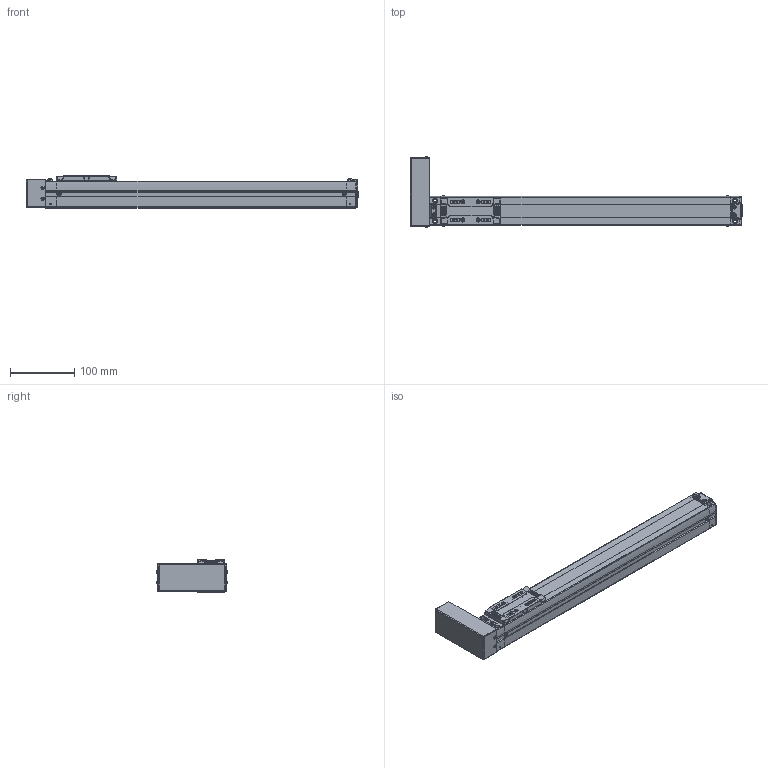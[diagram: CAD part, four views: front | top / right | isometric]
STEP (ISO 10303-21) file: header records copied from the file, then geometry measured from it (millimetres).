
FILE_DESCRIPTION(('STEP AP214'),'1');
FILE_NAME('Z:/Web/3D/SAN45/2013.ver/STP/SAN45-350PL.stp','2013-05-15T00:36:17',(' '),(' '),'Spatial InterOp 3D',' ',' ');
FILE_SCHEMA(('automotive_design'));
Length unit declared in the file: millimetre
Products named in the file (28): BODY-SAN45; REAR-SAN45; RRCV-SAN45; BHCS M3 x 6L; BHCS M3 X 6L; FRONT-SAN45; SHAFT; RN8 x 0.75; SSFX-SAN45; SLIDE-SAN45; SLCV-IM45; FHCS M3 x 6L; BTCV-SAN45
Bounding box: 516.15 x 110.13 x 50 mm (x, y, z)
Volume: 1017758.6 mm3; surface area: 158989.8 mm2
Topology: 28 solids, 28 shells, 1712 faces, 4447 edges, 2868 vertices
Faces by surface type: plane 887, cylinder 599, cone 128, bspline 40, sphere 40, torus 12, extrusion 6
Entity records: 70485 total; most frequent: CARTESIAN_POINT 13405, DIRECTION 9244, ORIENTED_EDGE 8790, EDGE_CURVE 4395, AXIS2_PLACEMENT_3D 3256, VERTEX_POINT 2868, VECTOR 2732, LINE 2726
